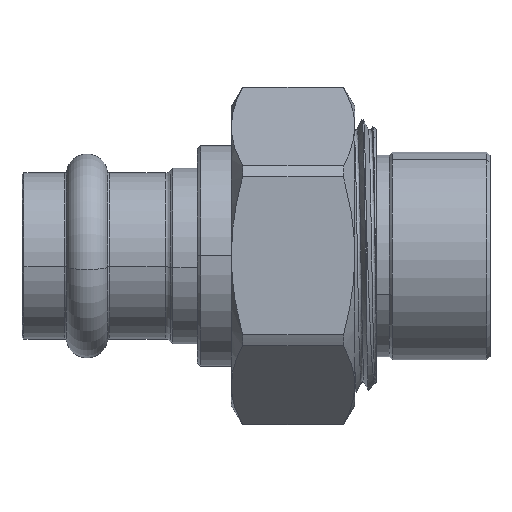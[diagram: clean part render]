
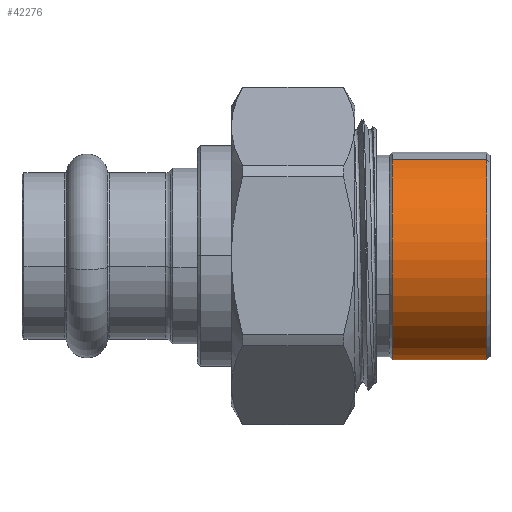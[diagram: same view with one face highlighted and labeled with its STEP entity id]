
A CAD part, top view. The second image highlights one B-rep face of the part: STEP entity #42276.
In plain terms, the highlighted cylindrical face has radius 0.63 mm (diameter 1.261 mm), a partial arc.
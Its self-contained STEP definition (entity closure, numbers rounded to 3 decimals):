
#19102 = CONICAL_SURFACE('',#19103,0.803,0.785);
#19103 = AXIS2_PLACEMENT_3D('',#19104,#19105,#19106);
#19104 = CARTESIAN_POINT('',(-29.493,1.438,
    -10.711));
#19105 = DIRECTION('',(1.,0.,0.));
#19106 = DIRECTION('',(0.,-0.382,
    0.924));
#19142 = CONICAL_SURFACE('',#19143,0.803,0.785);
#19143 = AXIS2_PLACEMENT_3D('',#19144,#19145,#19146);
#19144 = CARTESIAN_POINT('',(-29.493,1.438,
    -10.711));
#19145 = DIRECTION('',(1.,0.,0.));
#19146 = DIRECTION('',(0.,-0.382,
    0.924));
#19155 = VERTEX_POINT('',#19156);
#19156 = CARTESIAN_POINT('',(-29.666,0.856,
    -10.951));
#19171 = CYLINDRICAL_SURFACE('',#19172,0.63);
#19172 = AXIS2_PLACEMENT_3D('',#19173,#19174,#19175);
#19173 = CARTESIAN_POINT('',(-29.765,1.438,
    -10.711));
#19174 = DIRECTION('',(1.,0.,0.));
#19175 = DIRECTION('',(0.,-0.924,-0.382));
#19183 = EDGE_CURVE('',#19155,#19184,#19186,.T.);
#19184 = VERTEX_POINT('',#19185);
#19185 = CARTESIAN_POINT('',(-29.666,1.198,
    -10.128));
#19186 = SURFACE_CURVE('',#19187,(#19192,#19199),.PCURVE_S1.);
#19187 = CIRCLE('',#19188,0.63);
#19188 = AXIS2_PLACEMENT_3D('',#19189,#19190,#19191);
#19189 = CARTESIAN_POINT('',(-29.666,1.438,
    -10.711));
#19190 = DIRECTION('',(-1.,0.,0.));
#19191 = DIRECTION('',(0.,-0.382,
    0.924));
#19192 = PCURVE('',#19102,#19193);
#19193 = DEFINITIONAL_REPRESENTATION('',(#19194),#19198);
#19194 = LINE('',#19195,#19196);
#19195 = CARTESIAN_POINT('',(6.283,-0.173));
#19196 = VECTOR('',#19197,1.);
#19197 = DIRECTION('',(-1.,0.));
#19198 = ( GEOMETRIC_REPRESENTATION_CONTEXT(2) 
PARAMETRIC_REPRESENTATION_CONTEXT() REPRESENTATION_CONTEXT('2D SPACE',''
  ) );
#19199 = PCURVE('',#19200,#19205);
#19200 = CYLINDRICAL_SURFACE('',#19201,0.63);
#19201 = AXIS2_PLACEMENT_3D('',#19202,#19203,#19204);
#19202 = CARTESIAN_POINT('',(-29.765,1.438,
    -10.711));
#19203 = DIRECTION('',(1.,0.,0.));
#19204 = DIRECTION('',(0.,-0.924,-0.382));
#19205 = DEFINITIONAL_REPRESENTATION('',(#19206),#19210);
#19206 = LINE('',#19207,#19208);
#19207 = CARTESIAN_POINT('',(10.996,0.099));
#19208 = VECTOR('',#19209,1.);
#19209 = DIRECTION('',(-1.,0.));
#19210 = ( GEOMETRIC_REPRESENTATION_CONTEXT(2) 
PARAMETRIC_REPRESENTATION_CONTEXT() REPRESENTATION_CONTEXT('2D SPACE',''
  ) );
#19363 = VERTEX_POINT('',#19364);
#19364 = CARTESIAN_POINT('',(-29.095,0.856,
    -10.951));
#19378 = CONICAL_SURFACE('',#19379,0.611,0.785);
#19379 = AXIS2_PLACEMENT_3D('',#19380,#19381,#19382);
#19380 = CARTESIAN_POINT('',(-29.075,1.438,
    -10.711));
#19381 = DIRECTION('',(-1.,0.,0.));
#19382 = DIRECTION('',(0.,0.924,0.382));
#19391 = VERTEX_POINT('',#19392);
#19392 = CARTESIAN_POINT('',(-29.095,2.021,
    -10.47));
#19439 = VERTEX_POINT('',#19440);
#19440 = CARTESIAN_POINT('',(-29.666,2.021,
    -10.47));
#19462 = EDGE_CURVE('',#19439,#19391,#19463,.T.);
#19463 = SURFACE_CURVE('',#19464,(#19468,#19475),.PCURVE_S1.);
#19464 = LINE('',#19465,#19466);
#19465 = CARTESIAN_POINT('',(-29.765,2.021,
    -10.47));
#19466 = VECTOR('',#19467,1.);
#19467 = DIRECTION('',(1.,0.,0.));
#19468 = PCURVE('',#19171,#19469);
#19469 = DEFINITIONAL_REPRESENTATION('',(#19470),#19474);
#19470 = LINE('',#19471,#19472);
#19471 = CARTESIAN_POINT('',(3.142,0.));
#19472 = VECTOR('',#19473,1.);
#19473 = DIRECTION('',(0.,1.));
#19474 = ( GEOMETRIC_REPRESENTATION_CONTEXT(2) 
PARAMETRIC_REPRESENTATION_CONTEXT() REPRESENTATION_CONTEXT('2D SPACE',''
  ) );
#19475 = PCURVE('',#19200,#19476);
#19476 = DEFINITIONAL_REPRESENTATION('',(#19477),#19481);
#19477 = LINE('',#19478,#19479);
#19478 = CARTESIAN_POINT('',(3.142,0.));
#19479 = VECTOR('',#19480,1.);
#19480 = DIRECTION('',(0.,1.));
#19481 = ( GEOMETRIC_REPRESENTATION_CONTEXT(2) 
PARAMETRIC_REPRESENTATION_CONTEXT() REPRESENTATION_CONTEXT('2D SPACE',''
  ) );
#19484 = EDGE_CURVE('',#19155,#19363,#19485,.T.);
#19485 = SURFACE_CURVE('',#19486,(#19490,#19497),.PCURVE_S1.);
#19486 = LINE('',#19487,#19488);
#19487 = CARTESIAN_POINT('',(-29.765,0.856,
    -10.951));
#19488 = VECTOR('',#19489,1.);
#19489 = DIRECTION('',(1.,0.,0.));
#19490 = PCURVE('',#19171,#19491);
#19491 = DEFINITIONAL_REPRESENTATION('',(#19492),#19496);
#19492 = LINE('',#19493,#19494);
#19493 = CARTESIAN_POINT('',(0.,0.));
#19494 = VECTOR('',#19495,1.);
#19495 = DIRECTION('',(0.,1.));
#19496 = ( GEOMETRIC_REPRESENTATION_CONTEXT(2) 
PARAMETRIC_REPRESENTATION_CONTEXT() REPRESENTATION_CONTEXT('2D SPACE',''
  ) );
#19497 = PCURVE('',#19200,#19498);
#19498 = DEFINITIONAL_REPRESENTATION('',(#19499),#19503);
#19499 = LINE('',#19500,#19501);
#19500 = CARTESIAN_POINT('',(6.283,0.));
#19501 = VECTOR('',#19502,1.);
#19502 = DIRECTION('',(0.,1.));
#19503 = ( GEOMETRIC_REPRESENTATION_CONTEXT(2) 
PARAMETRIC_REPRESENTATION_CONTEXT() REPRESENTATION_CONTEXT('2D SPACE',''
  ) );
#42276 = ADVANCED_FACE('',(#42277),#19200,.T.);
#42277 = FACE_BOUND('',#42278,.T.);
#42278 = EDGE_LOOP('',(#42279,#42280,#42302,#42303,#42304));
#42279 = ORIENTED_EDGE('',*,*,#19462,.F.);
#42280 = ORIENTED_EDGE('',*,*,#42281,.F.);
#42281 = EDGE_CURVE('',#19184,#19439,#42282,.T.);
#42282 = SURFACE_CURVE('',#42283,(#42288,#42295),.PCURVE_S1.);
#42283 = CIRCLE('',#42284,0.63);
#42284 = AXIS2_PLACEMENT_3D('',#42285,#42286,#42287);
#42285 = CARTESIAN_POINT('',(-29.666,1.438,
    -10.711));
#42286 = DIRECTION('',(-1.,0.,0.));
#42287 = DIRECTION('',(0.,-0.382,
    0.924));
#42288 = PCURVE('',#19200,#42289);
#42289 = DEFINITIONAL_REPRESENTATION('',(#42290),#42294);
#42290 = LINE('',#42291,#42292);
#42291 = CARTESIAN_POINT('',(4.712,0.099));
#42292 = VECTOR('',#42293,1.);
#42293 = DIRECTION('',(-1.,0.));
#42294 = ( GEOMETRIC_REPRESENTATION_CONTEXT(2) 
PARAMETRIC_REPRESENTATION_CONTEXT() REPRESENTATION_CONTEXT('2D SPACE',''
  ) );
#42295 = PCURVE('',#19142,#42296);
#42296 = DEFINITIONAL_REPRESENTATION('',(#42297),#42301);
#42297 = LINE('',#42298,#42299);
#42298 = CARTESIAN_POINT('',(6.283,-0.173));
#42299 = VECTOR('',#42300,1.);
#42300 = DIRECTION('',(-1.,0.));
#42301 = ( GEOMETRIC_REPRESENTATION_CONTEXT(2) 
PARAMETRIC_REPRESENTATION_CONTEXT() REPRESENTATION_CONTEXT('2D SPACE',''
  ) );
#42302 = ORIENTED_EDGE('',*,*,#19183,.F.);
#42303 = ORIENTED_EDGE('',*,*,#19484,.T.);
#42304 = ORIENTED_EDGE('',*,*,#42305,.T.);
#42305 = EDGE_CURVE('',#19363,#19391,#42306,.T.);
#42306 = SURFACE_CURVE('',#42307,(#42312,#42319),.PCURVE_S1.);
#42307 = CIRCLE('',#42308,0.63);
#42308 = AXIS2_PLACEMENT_3D('',#42309,#42310,#42311);
#42309 = CARTESIAN_POINT('',(-29.095,1.438,
    -10.711));
#42310 = DIRECTION('',(-1.,0.,0.));
#42311 = DIRECTION('',(0.,0.924,0.382));
#42312 = PCURVE('',#19200,#42313);
#42313 = DEFINITIONAL_REPRESENTATION('',(#42314),#42318);
#42314 = LINE('',#42315,#42316);
#42315 = CARTESIAN_POINT('',(9.425,0.67));
#42316 = VECTOR('',#42317,1.);
#42317 = DIRECTION('',(-1.,0.));
#42318 = ( GEOMETRIC_REPRESENTATION_CONTEXT(2) 
PARAMETRIC_REPRESENTATION_CONTEXT() REPRESENTATION_CONTEXT('2D SPACE',''
  ) );
#42319 = PCURVE('',#19378,#42320);
#42320 = DEFINITIONAL_REPRESENTATION('',(#42321),#42325);
#42321 = LINE('',#42322,#42323);
#42322 = CARTESIAN_POINT('',(0.,0.02));
#42323 = VECTOR('',#42324,1.);
#42324 = DIRECTION('',(1.,0.));
#42325 = ( GEOMETRIC_REPRESENTATION_CONTEXT(2) 
PARAMETRIC_REPRESENTATION_CONTEXT() REPRESENTATION_CONTEXT('2D SPACE',''
  ) );
